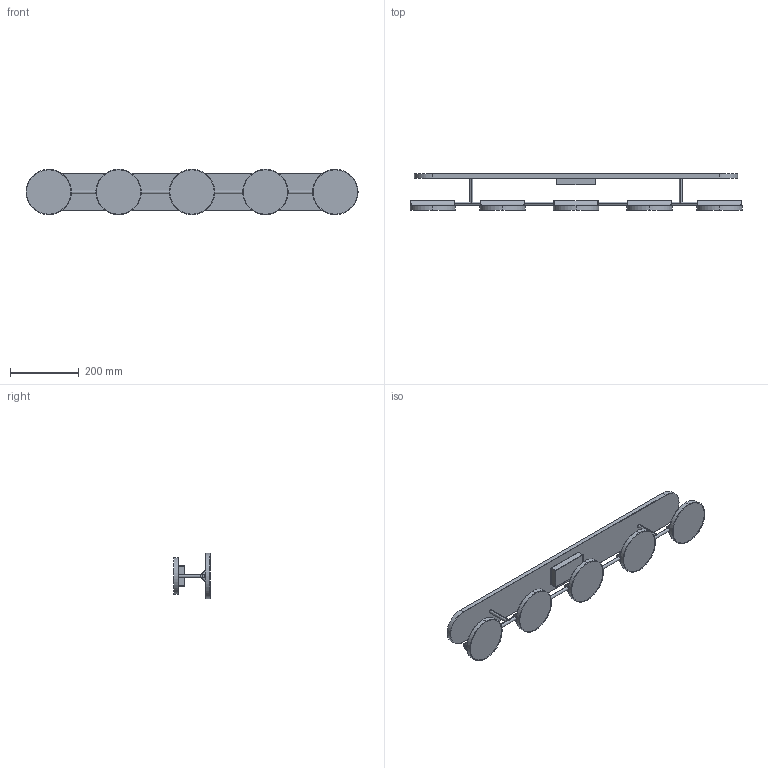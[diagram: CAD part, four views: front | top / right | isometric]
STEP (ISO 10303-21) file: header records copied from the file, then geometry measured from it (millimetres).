
FILE_DESCRIPTION (( 'STEP AP203' ), '1' );
FILE_NAME ('199-G_ASSEMBLY.STEP', '2023-08-04T15:49:27', ( '' ), ( '' ), 'SwSTEP 2.0', 'SolidWorks 2018', '' );
FILE_SCHEMA (( 'CONFIG_CONTROL_DESIGN' ));
Length unit declared in the file: inch
Products named in the file (3): xx-CH flat_Angled; 199-G_ASSEMBLY; 119-G-driver_update
Assembly tree (6 placements, depth 2):
  199-G_ASSEMBLY
    119-G-driver_update
    xx-CH flat_Angled  x5
Bounding box: 965 x 106.5 x 132 mm (x, y, z)
Volume: 2572810.9 mm3; surface area: 636908.6 mm2
Topology: 17 solids, 17 shells, 250 faces, 534 edges, 317 vertices
Faces by surface type: cylinder 87, torus 61, bspline 50, plane 48, sphere 4
Entity records: 3991 total; most frequent: CARTESIAN_POINT 1742, DIRECTION 424, ORIENTED_EDGE 356, AXIS2_PLACEMENT_3D 185, EDGE_CURVE 178, VERTEX_POINT 105, CIRCLE 100, EDGE_LOOP 93
